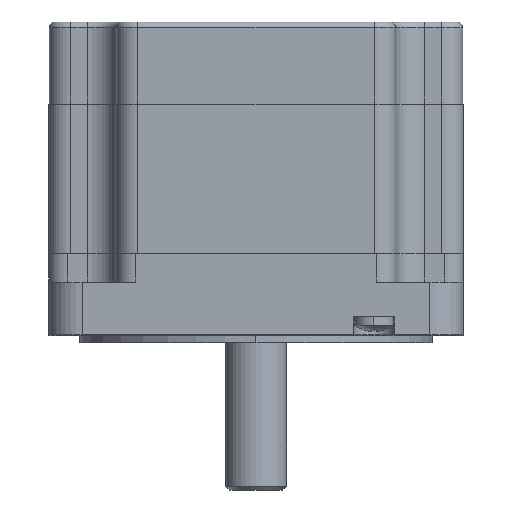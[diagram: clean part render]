
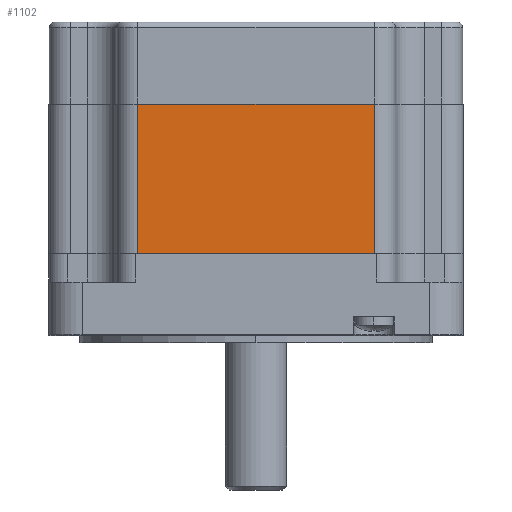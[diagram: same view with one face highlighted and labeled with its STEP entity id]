
A CAD part, left-side view. The second image highlights one B-rep face of the part: STEP entity #1102.
In plain terms, the highlighted planar face has unit normal (-1, 0, 0).
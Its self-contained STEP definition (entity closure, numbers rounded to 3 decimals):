
#490 = VERTEX_POINT ( 'NONE', #8722 ) ;
#763 = LINE ( 'NONE', #7403, #9190 ) ;
#876 = LINE ( 'NONE', #7571, #3538 ) ;
#1022 = EDGE_CURVE ( 'NONE', #6897, #1755, #3218, .T. ) ;
#1102 = ADVANCED_FACE ( 'NONE', ( #3880 ), #6728, .T. ) ;
#1123 = CARTESIAN_POINT ( 'NONE',  ( -43., 24.5, 0. ) ) ;
#1565 = AXIS2_PLACEMENT_3D ( 'NONE', #1861, #2481, #3168 ) ;
#1673 = CARTESIAN_POINT ( 'NONE',  ( -43., -24.5, 0. ) ) ;
#1755 = VERTEX_POINT ( 'NONE', #3962 ) ;
#1760 = EDGE_CURVE ( 'NONE', #5507, #6897, #876, .T. ) ;
#1861 = CARTESIAN_POINT ( 'NONE',  ( -43., -24.5, -31. ) ) ;
#2481 = DIRECTION ( 'NONE',  ( -1., 0., 0. ) ) ;
#3168 = DIRECTION ( 'NONE',  ( 0., 0., 1. ) ) ;
#3218 = LINE ( 'NONE', #1673, #4545 ) ;
#3492 = DIRECTION ( 'NONE',  ( 0., -1., 0. ) ) ;
#3538 = VECTOR ( 'NONE', #3932, 1000. ) ;
#3793 = ORIENTED_EDGE ( 'NONE', *, *, #1022, .F. ) ;
#3872 = DIRECTION ( 'NONE',  ( 0., 0., 1. ) ) ;
#3880 = FACE_OUTER_BOUND ( 'NONE', #7316, .T. ) ;
#3932 = DIRECTION ( 'NONE',  ( 0., 0., 1. ) ) ;
#3962 = CARTESIAN_POINT ( 'NONE',  ( -43., -24.5, 0. ) ) ;
#4219 = CARTESIAN_POINT ( 'NONE',  ( -43., 24.5, -31. ) ) ;
#4545 = VECTOR ( 'NONE', #8750, 1000. ) ;
#4830 = VECTOR ( 'NONE', #3492, 1000. ) ;
#5507 = VERTEX_POINT ( 'NONE', #4219 ) ;
#6728 = PLANE ( 'NONE',  #1565 ) ;
#6883 = EDGE_CURVE ( 'NONE', #490, #1755, #763, .T. ) ;
#6897 = VERTEX_POINT ( 'NONE', #1123 ) ;
#6908 = ORIENTED_EDGE ( 'NONE', *, *, #1760, .F. ) ;
#6930 = ORIENTED_EDGE ( 'NONE', *, *, #6883, .T. ) ;
#7280 = LINE ( 'NONE', #9127, #4830 ) ;
#7316 = EDGE_LOOP ( 'NONE', ( #3793, #6908, #8344, #6930 ) ) ;
#7403 = CARTESIAN_POINT ( 'NONE',  ( -43., -24.5, -31. ) ) ;
#7571 = CARTESIAN_POINT ( 'NONE',  ( -43., 24.5, -31. ) ) ;
#8344 = ORIENTED_EDGE ( 'NONE', *, *, #8685, .T. ) ;
#8685 = EDGE_CURVE ( 'NONE', #5507, #490, #7280, .T. ) ;
#8722 = CARTESIAN_POINT ( 'NONE',  ( -43., -24.5, -31. ) ) ;
#8750 = DIRECTION ( 'NONE',  ( 0., -1., 0. ) ) ;
#9127 = CARTESIAN_POINT ( 'NONE',  ( -43., -24.5, -31. ) ) ;
#9190 = VECTOR ( 'NONE', #3872, 1000. ) ;
